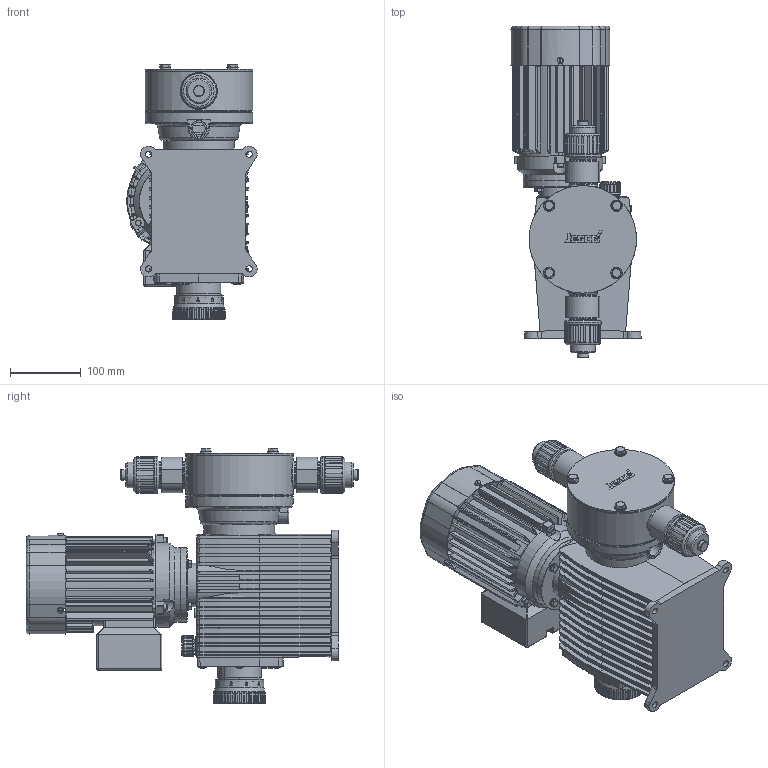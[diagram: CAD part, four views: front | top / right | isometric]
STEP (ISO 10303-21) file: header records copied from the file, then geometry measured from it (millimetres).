
FILE_DESCRIPTION (( 'STEP AP203' ), '1' );
FILE_NAME ('Memdos LB 210...260.STEP', '2014-04-10T08:36:36', ( '' ), ( '' ), 'SwSTEP 2.0', 'SolidWorks 2011', '' );
FILE_SCHEMA (( 'CONFIG_CONTROL_DESIGN' ));
Products named in the file (1): Memdos LB 210...260
Bounding box: 184.55 x 470.62 x 362.56 mm (x, y, z)
Surface area: 789999.4 mm2 (no closed solid volume)
Topology: 0 solids, 13 shells, 2829 faces, 7663 edges, 4915 vertices
Faces by surface type: plane 1050, cylinder 950, bspline 405, torus 207, cone 162, sphere 55
Full cylindrical faces by diameter (mm): 5.015 x7, 8.024 x4, 8.525 x3, 8.526 x1, 9 x4, 9.328 x1, 10.03 x4, 11.835 x6, 12.036 x4, 13.039 x4, 13.541 x1, 14.042 x2, 15.346 x2, 16.048 x4, 17.939 x1, 18.054 x2, 20.06 x1, 22.066 x1, 22.567 x1, 23.024 x1, 26.045 x1, 26.078 x1, 26.479 x2, 27.081 x1, 28.285 x1, 30.09 x1, 32.096 x1, 35.907 x2, 38.072 x4, 47.141 x1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
Entity records: 128449 total; most frequent: CARTESIAN_POINT 64227, ORIENTED_EDGE 14367, DIRECTION 11729, EDGE_CURVE 7187, VERTEX_POINT 4730, AXIS2_PLACEMENT_3D 4562, EDGE_LOOP 3215, FACE_OUTER_BOUND 2977
